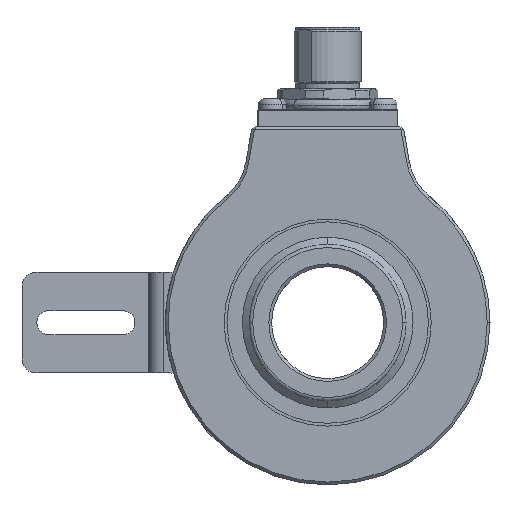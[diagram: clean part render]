
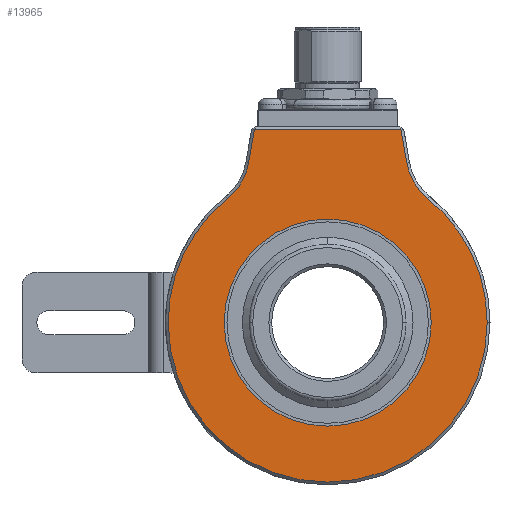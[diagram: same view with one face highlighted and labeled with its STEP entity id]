
A CAD part, left-side view. The second image highlights one B-rep face of the part: STEP entity #13965.
In plain terms, the highlighted planar face has unit normal (-1, 0, 0).
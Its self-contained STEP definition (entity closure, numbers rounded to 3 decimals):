
#425 = AXIS2_PLACEMENT_3D ( 'NONE', #790, #8560, #8362 ) ;
#568 = CARTESIAN_POINT ( 'NONE',  ( -27., -24.471, 30.367 ) ) ;
#576 = DIRECTION ( 'NONE',  ( 0., 0.174, 0.985 ) ) ;
#780 = CARTESIAN_POINT ( 'NONE',  ( -27., 14.131, 28.544 ) ) ;
#790 = CARTESIAN_POINT ( 'NONE',  ( -27., 0., 0. ) ) ;
#1356 = CIRCLE ( 'NONE', #11237, 18.5 ) ;
#1378 = DIRECTION ( 'NONE',  ( 0., 0.174, -0.985 ) ) ;
#1412 = FACE_OUTER_BOUND ( 'NONE', #16908, .T. ) ;
#1442 = VERTEX_POINT ( 'NONE', #18188 ) ;
#1723 = DIRECTION ( 'NONE',  ( -1., 0., 0. ) ) ;
#1853 = CARTESIAN_POINT ( 'NONE',  ( -27., -17.711, 8.236 ) ) ;
#2477 = CARTESIAN_POINT ( 'NONE',  ( -27., -28.5, 0. ) ) ;
#2591 = CARTESIAN_POINT ( 'NONE',  ( -27., -18.5, 0. ) ) ;
#2848 = LINE ( 'NONE', #15241, #3658 ) ;
#2977 = CARTESIAN_POINT ( 'NONE',  ( -27., 28.5, 0. ) ) ;
#3191 = VERTEX_POINT ( 'NONE', #2977 ) ;
#3212 = CARTESIAN_POINT ( 'NONE',  ( -27., 0., 0. ) ) ;
#3515 = EDGE_CURVE ( 'NONE', #7995, #6124, #2848, .T. ) ;
#3658 = VECTOR ( 'NONE', #1378, 1000. ) ;
#3750 = EDGE_CURVE ( 'NONE', #16175, #14874, #10937, .T. ) ;
#3814 = AXIS2_PLACEMENT_3D ( 'NONE', #13772, #16499, #12274 ) ;
#3912 = VERTEX_POINT ( 'NONE', #14543 ) ;
#4018 = CIRCLE ( 'NONE', #15179, 18.5 ) ;
#4560 = CARTESIAN_POINT ( 'NONE',  ( -27., 0., 0. ) ) ;
#4585 = DIRECTION ( 'NONE',  ( -1., 0., 0. ) ) ;
#4832 = AXIS2_PLACEMENT_3D ( 'NONE', #19419, #4585, #10669 ) ;
#4970 = EDGE_CURVE ( 'NONE', #3191, #7635, #16423, .T. ) ;
#5218 = ORIENTED_EDGE ( 'NONE', *, *, #15724, .T. ) ;
#5362 = AXIS2_PLACEMENT_3D ( 'NONE', #568, #8336, #9830 ) ;
#5645 = ORIENTED_EDGE ( 'NONE', *, *, #7685, .T. ) ;
#6110 = DIRECTION ( 'NONE',  ( 0., -1., 0. ) ) ;
#6124 = VERTEX_POINT ( 'NONE', #780 ) ;
#6482 = VECTOR ( 'NONE', #12153, 1000. ) ;
#6648 = ORIENTED_EDGE ( 'NONE', *, *, #10433, .T. ) ;
#7486 = PLANE ( 'NONE',  #4832 ) ;
#7635 = VERTEX_POINT ( 'NONE', #2477 ) ;
#7685 = EDGE_CURVE ( 'NONE', #1442, #19136, #4018, .T. ) ;
#7756 = DIRECTION ( 'NONE',  ( 0., 1., 0. ) ) ;
#7762 = CIRCLE ( 'NONE', #17025, 28.5 ) ;
#7844 = DIRECTION ( 'NONE',  ( 0., -1., 0. ) ) ;
#7995 = VERTEX_POINT ( 'NONE', #11657 ) ;
#8141 = ORIENTED_EDGE ( 'NONE', *, *, #4970, .T. ) ;
#8336 = DIRECTION ( 'NONE',  ( 1., 0., 0. ) ) ;
#8362 = DIRECTION ( 'NONE',  ( 0., -1., 0. ) ) ;
#8560 = DIRECTION ( 'NONE',  ( -1., 0., 0. ) ) ;
#8608 = CARTESIAN_POINT ( 'NONE',  ( -27., 0., 0. ) ) ;
#8897 = CIRCLE ( 'NONE', #3814, 10.5 ) ;
#9234 = CARTESIAN_POINT ( 'NONE',  ( -27., 0., 0. ) ) ;
#9644 = ORIENTED_EDGE ( 'NONE', *, *, #3750, .T. ) ;
#9830 = DIRECTION ( 'NONE',  ( 0., -1., 0. ) ) ;
#10433 = EDGE_CURVE ( 'NONE', #3912, #16175, #13985, .T. ) ;
#10489 = ORIENTED_EDGE ( 'NONE', *, *, #16492, .T. ) ;
#10669 = DIRECTION ( 'NONE',  ( 0., -1., 0. ) ) ;
#10937 = LINE ( 'NONE', #1853, #15470 ) ;
#11033 = ORIENTED_EDGE ( 'NONE', *, *, #3515, .T. ) ;
#11237 = AXIS2_PLACEMENT_3D ( 'NONE', #8608, #14706, #19325 ) ;
#11554 = ORIENTED_EDGE ( 'NONE', *, *, #16006, .T. ) ;
#11657 = CARTESIAN_POINT ( 'NONE',  ( -27., 13.08, 34.5 ) ) ;
#12153 = DIRECTION ( 'NONE',  ( 0., 1., 0. ) ) ;
#12245 = ORIENTED_EDGE ( 'NONE', *, *, #16253, .T. ) ;
#12274 = DIRECTION ( 'NONE',  ( 0., -1., 0. ) ) ;
#12523 = CARTESIAN_POINT ( 'NONE',  ( -27., -14.131, 28.544 ) ) ;
#13456 = VERTEX_POINT ( 'NONE', #15431 ) ;
#13584 = ORIENTED_EDGE ( 'NONE', *, *, #14958, .T. ) ;
#13772 = CARTESIAN_POINT ( 'NONE',  ( -27., 24.471, 30.367 ) ) ;
#13965 = ADVANCED_FACE ( 'NONE', ( #1412, #16514 ), #7486, .T. ) ;
#13985 = CIRCLE ( 'NONE', #5362, 10.5 ) ;
#14252 = EDGE_LOOP ( 'NONE', ( #5645, #13584 ) ) ;
#14543 = CARTESIAN_POINT ( 'NONE',  ( -27., -17.883, 22.191 ) ) ;
#14706 = DIRECTION ( 'NONE',  ( 1., 0., 0. ) ) ;
#14795 = CARTESIAN_POINT ( 'NONE',  ( -27., -13.08, 34.5 ) ) ;
#14874 = VERTEX_POINT ( 'NONE', #14795 ) ;
#14958 = EDGE_CURVE ( 'NONE', #19136, #1442, #1356, .T. ) ;
#15157 = DIRECTION ( 'NONE',  ( 1., 0., 0. ) ) ;
#15179 = AXIS2_PLACEMENT_3D ( 'NONE', #4560, #15157, #7756 ) ;
#15234 = CARTESIAN_POINT ( 'NONE',  ( -27., 29., 34.5 ) ) ;
#15241 = CARTESIAN_POINT ( 'NONE',  ( -27., 19.46, -1.682 ) ) ;
#15348 = DIRECTION ( 'NONE',  ( -1., 0., 0. ) ) ;
#15431 = CARTESIAN_POINT ( 'NONE',  ( -27., 17.883, 22.191 ) ) ;
#15440 = LINE ( 'NONE', #15234, #6482 ) ;
#15470 = VECTOR ( 'NONE', #576, 1000. ) ;
#15724 = EDGE_CURVE ( 'NONE', #13456, #3191, #17649, .T. ) ;
#16006 = EDGE_CURVE ( 'NONE', #14874, #7995, #15440, .T. ) ;
#16175 = VERTEX_POINT ( 'NONE', #12523 ) ;
#16253 = EDGE_CURVE ( 'NONE', #7635, #3912, #7762, .T. ) ;
#16423 = CIRCLE ( 'NONE', #18652, 28.5 ) ;
#16492 = EDGE_CURVE ( 'NONE', #6124, #13456, #8897, .T. ) ;
#16499 = DIRECTION ( 'NONE',  ( 1., 0., 0. ) ) ;
#16514 = FACE_BOUND ( 'NONE', #14252, .T. ) ;
#16908 = EDGE_LOOP ( 'NONE', ( #9644, #11554, #11033, #10489, #5218, #8141, #12245, #6648 ) ) ;
#17025 = AXIS2_PLACEMENT_3D ( 'NONE', #3212, #1723, #6110 ) ;
#17649 = CIRCLE ( 'NONE', #425, 28.5 ) ;
#18188 = CARTESIAN_POINT ( 'NONE',  ( -27., 18.5, 0. ) ) ;
#18652 = AXIS2_PLACEMENT_3D ( 'NONE', #9234, #15348, #7844 ) ;
#19136 = VERTEX_POINT ( 'NONE', #2591 ) ;
#19325 = DIRECTION ( 'NONE',  ( 0., 1., 0. ) ) ;
#19419 = CARTESIAN_POINT ( 'NONE',  ( -27., 29., 0. ) ) ;
